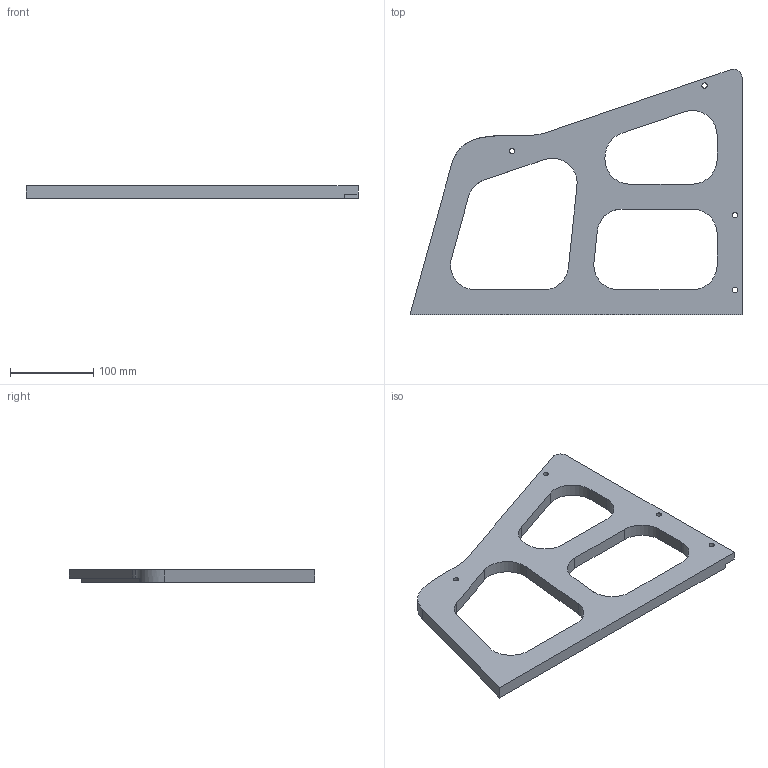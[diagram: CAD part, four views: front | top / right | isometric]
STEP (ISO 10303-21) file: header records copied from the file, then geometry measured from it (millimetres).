
FILE_DESCRIPTION (( 'STEP AP214' ), '1' );
FILE_NAME ('side_right.STEP', '2018-06-04T17:54:03', ( '' ), ( '' ), 'SwSTEP 2.0', 'SolidWorks 2017', '' );
FILE_SCHEMA (( 'AUTOMOTIVE_DESIGN' ));
Length unit declared in the file: millimetre
Products named in the file (1): side_right
Bounding box: 400 x 296.03 x 15 mm (x, y, z)
Volume: 658002.7 mm3; surface area: 136148.9 mm2
Topology: 1 solids, 1 shells, 59 faces, 171 edges, 114 vertices
Faces by surface type: plane 32, cylinder 26, bspline 1
Entity records: 2026 total; most frequent: CARTESIAN_POINT 361, ORIENTED_EDGE 342, DIRECTION 338, EDGE_CURVE 171, VECTOR 116, LINE 116, VERTEX_POINT 114, AXIS2_PLACEMENT_3D 111
